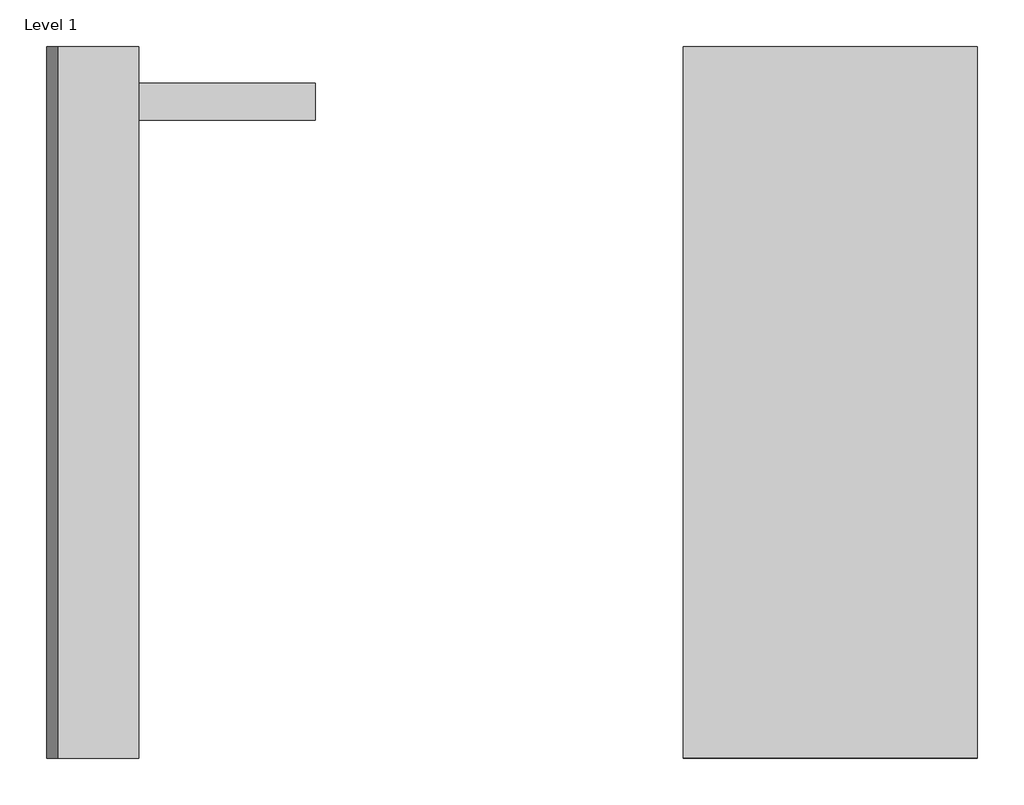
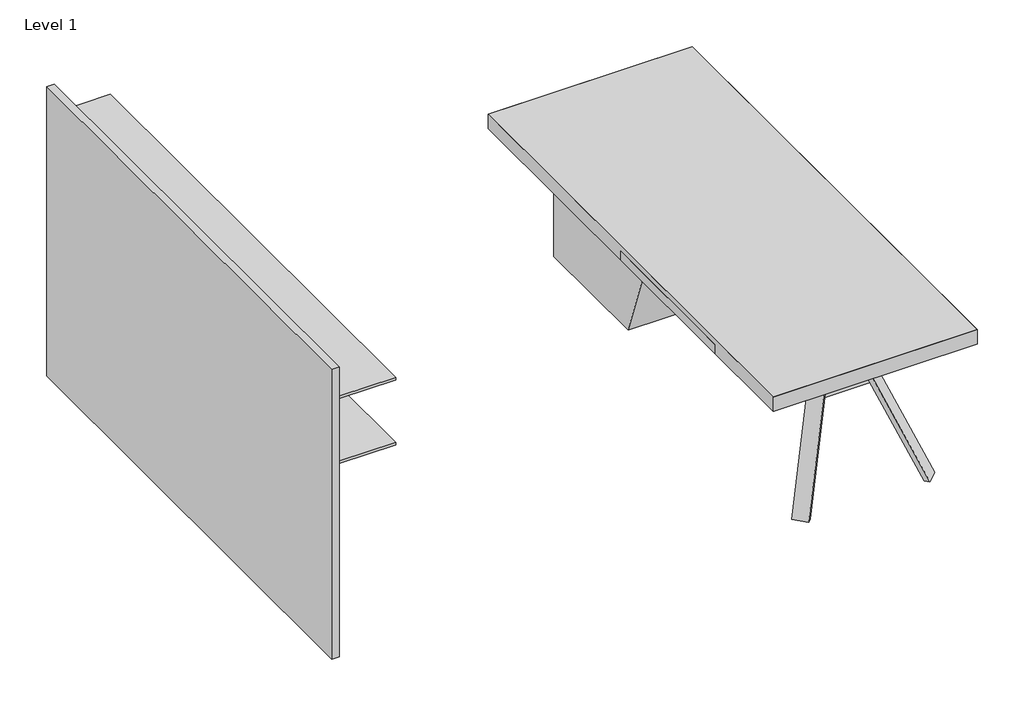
# One storey, incomplete: 3 proxies.
"""IFC4 building model written with IfcOpenShell, lengths in millimetres."""

from ifc_helpers import new_model, si_unit, origin, place, context, project, spatial, transform, mapped, element, save
from components import generic_models_434323ad, generic_models_dd6469f5, generic_models_54f86054

model = new_model("IFC4")

# Units and contexts
model_context = context("Model", 3, world=origin())
ifc_project = project(units=[si_unit("LENGTHUNIT", "METRE", prefix="MILLI")], contexts=[model_context])

# Site, building, storey
site = spatial("IfcSite", under=ifc_project)
building = spatial("IfcBuilding", under=site)
storey = spatial("IfcBuildingStorey", under=building, Name="Level 1", Elevation=0.0)

# Proxies
placement = place(None, origin())
generic_models_shape = generic_models_434323ad(model_context)
element("IfcBuildingElementProxy", 1, Name="DATUM^OFFICE 3_CREDENZA-BOTTOM RISER", ObjectType="DATUM^OFFICE 3_CREDENZA-BOTTOM RISER", at=placement, inside=storey, context=model_context, shape_type="MappedRepresentation", body=[
    mapped(generic_models_shape, transform((-2032.0, -127.0, 0.0), x_axis=(1.0, 0.0, 0.0), y_axis=(0.0, 0.0, 1.0), z_axis=(0.0, -1.0, 0.0))),
])
generic_models_2_shape = generic_models_dd6469f5(model_context)
element("IfcBuildingElementProxy", 2, Name="DATUM^OFFICE 3_DESK-SOLID ASSEMBLY", ObjectType="DATUM^OFFICE 3_DESK-SOLID ASSEMBLY", at=placement, inside=storey, context=model_context, shape_type="MappedRepresentation", body=[
    mapped(generic_models_2_shape, transform((0.0, -2457.45, 0.0), x_axis=(0.0, 1.0, 0.0), y_axis=(0.0, 0.0, 1.0), z_axis=(1.0, 0.0, 0.0))),
])
generic_models_3_shape = generic_models_54f86054(model_context)
element("IfcBuildingElementProxy", 3, Name="DATUM^OFFICE 3_WALL HUNG-PARTS SOLID", ObjectType="DATUM^OFFICE 3_WALL HUNG-PARTS SOLID", at=placement, inside=storey, context=model_context, shape_type="MappedRepresentation", body=[
    mapped(generic_models_3_shape, transform((-2178.05, -2457.45, 152.4), x_axis=(0.0, 1.0, 0.0), y_axis=(0.0, 0.0, 1.0), z_axis=(1.0, 0.0, 0.0))),
])

save(model, "model.ifc")
